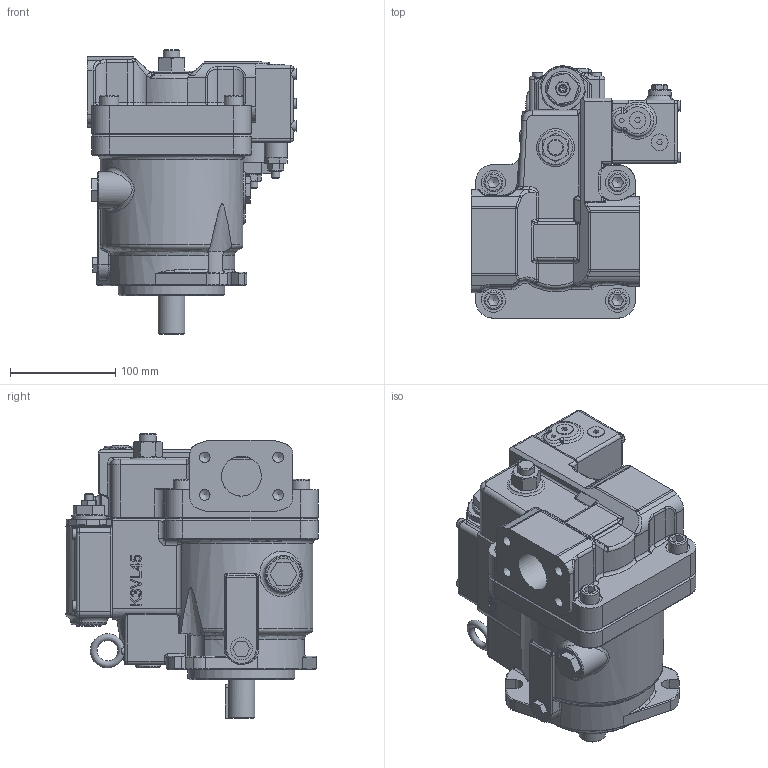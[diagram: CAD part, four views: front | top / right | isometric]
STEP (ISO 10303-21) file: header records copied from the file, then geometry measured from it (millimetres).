
FILE_DESCRIPTION((''),'2;1');
FILE_NAME('I:\3D Step files\Approved for WEB\K3V\K3VL45B 10RKM P0 1-H.stp','2013-03-05T08:56:49',('MNORMAN'),(''),'Autodesk Inventor 2013','Autodesk Inventor 2013','');
FILE_SCHEMA(('AUTOMOTIVE_DESIGN { 1 0 10303 214 1 1 1 1 }'));
Length unit declared in the file: millimetre
Products named in the file (1): Part2
Bounding box: 199 x 239.96 x 270.2 mm (x, y, z)
Volume: 5094337.1 mm3; surface area: 321656.3 mm2
Topology: 22 solids, 22 shells, 1280 faces, 3058 edges, 1860 vertices
Faces by surface type: plane 553, cylinder 329, bspline 165, cone 128, torus 79, sphere 26
Full cylindrical faces by diameter (mm): 4.917 x4, 6 x8, 6.5 x4, 6.6 x4, 6.647 x1, 8 x7, 8.376 x5, 10 x8, 10.106 x8, 11 x8, 12 x4, 13.835 x1, 15.5 x4, 16 x3, 18 x4, 21 x1, 22 x2, 22.177 x1, 23 x4, 24 x3, 25 x1, 25.4 x1, 26 x1, 30 x4, 32 x1, 33 x2, 36 x1, 38 x1, 90 x1, 101.6 x1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
Entity records: 41896 total; most frequent: CARTESIAN_POINT 13138, ORIENTED_EDGE 5614, DIRECTION 5441, EDGE_CURVE 2807, AXIS2_PLACEMENT_3D 2087, VERTEX_POINT 1801, EDGE_LOOP 1538, STYLED_ITEM 1303
